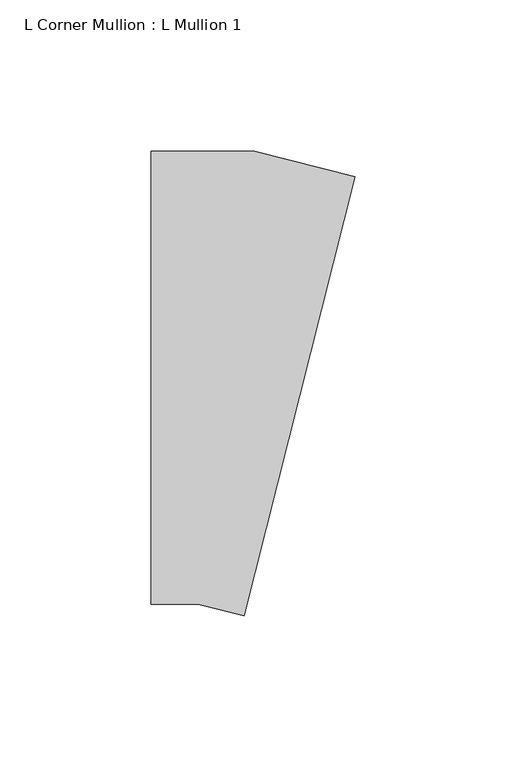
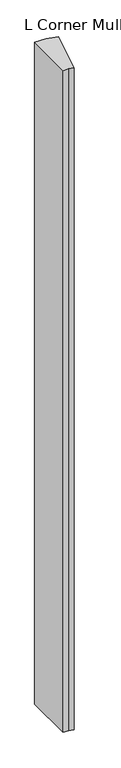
"""IFC4 building model written with IfcOpenShell, lengths in millimetres: member geometry, L Corner Mullion : L Mullion 1."""

from ifc_helpers import new_model, si_unit, frame, origin, place, context, project, spatial, polyline, outline, extrude, source, transform, mapped, element, save


def l_corner_mullion_l_mullion_1_c5948f4c(model_context):
    return source(origin(), model_context, "Body", "SweptSolid", [
        extrude(outline(polyline([(5.8168915, -78.842652), (-9.3519783, -75.0), (-25.0, -75.0), (-25.0, 75.0), (9.3519783, 75.0), (42.652078, 66.5642565), (5.8168915, -78.842652)])), frame((0.0, 0.0, -2126.6410997), z_axis=(0.0, 0.0, 1.0), x_axis=(1.0, 0.0, 0.0)), (0.0, 0.0, 1.0), 2126.6410997),
    ])


if __name__ == "__main__":
    model = new_model("IFC4")
    model_context = context("Model", 3, world=origin())
    ifc_project = project(units=[si_unit("LENGTHUNIT", "METRE", prefix="MILLI")], contexts=[model_context])
    site = spatial("IfcSite", under=ifc_project)
    building = spatial("IfcBuilding", under=site)
    placement = place(None, origin())
    l_corner_mullion_l_mullion_1_shape = l_corner_mullion_l_mullion_1_c5948f4c(model_context)
    element("IfcMember", 1, ObjectType="L Corner Mullion : L Mullion 1", at=placement, inside=building, context=model_context, shape_type="MappedRepresentation", body=[
        mapped(l_corner_mullion_l_mullion_1_shape, transform((0.0, 0.0, 0.0), x_axis=(1.0, 0.0, 0.0), y_axis=(0.0, 1.0, 0.0), z_axis=(0.0, 0.0, 1.0))),
    ])
    save(model, "model.ifc")
